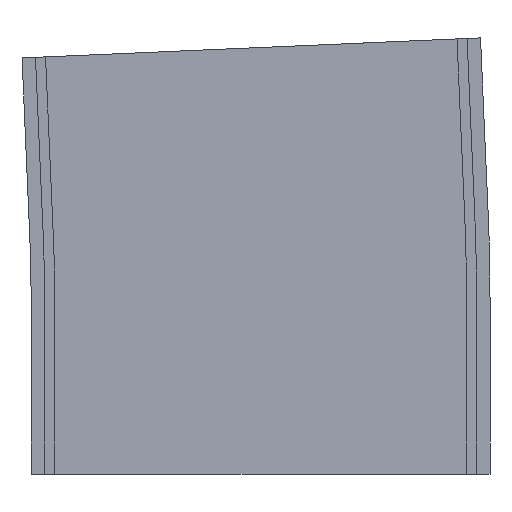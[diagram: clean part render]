
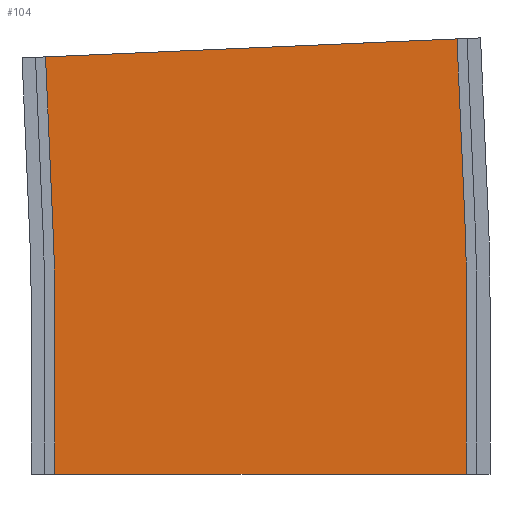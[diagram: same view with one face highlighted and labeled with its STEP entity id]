
A CAD part, left-side view. The second image highlights one B-rep face of the part: STEP entity #104.
In plain terms, the highlighted planar face has unit normal (-1, 0, 0).
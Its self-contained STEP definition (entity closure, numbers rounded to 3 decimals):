
#7 = VECTOR ( 'NONE', #1339, 1000. ) ;
#32 = ORIENTED_EDGE ( 'NONE', *, *, #828, .T. ) ;
#33 = DIRECTION ( 'NONE',  ( -1., 0., 0. ) ) ;
#37 = DIRECTION ( 'NONE',  ( 0., 0.044, 0.999 ) ) ;
#69 = LINE ( 'NONE', #1338, #1218 ) ;
#76 = CARTESIAN_POINT ( 'NONE',  ( -116.25, -61.25, 0. ) ) ;
#87 = LINE ( 'NONE', #76, #1041 ) ;
#97 = ORIENTED_EDGE ( 'NONE', *, *, #1293, .T. ) ;
#100 = VERTEX_POINT ( 'NONE', #921 ) ;
#104 = ADVANCED_FACE ( 'NONE', ( #262 ), #1133, .F. ) ;
#168 = CARTESIAN_POINT ( 'NONE',  ( -116.25, 500., 52.5 ) ) ;
#252 = DIRECTION ( 'NONE',  ( 0., 0., 1. ) ) ;
#262 = FACE_OUTER_BOUND ( 'NONE', #499, .T. ) ;
#270 = CARTESIAN_POINT ( 'NONE',  ( -116.25, -61.25, 52.5 ) ) ;
#279 = VECTOR ( 'NONE', #897, 1000. ) ;
#295 = EDGE_CURVE ( 'NONE', #654, #100, #770, .T. ) ;
#315 = LINE ( 'NONE', #270, #7 ) ;
#328 = VECTOR ( 'NONE', #37, 1000. ) ;
#337 = CARTESIAN_POINT ( 'NONE',  ( -116.25, 500., 52.5 ) ) ;
#364 = VERTEX_POINT ( 'NONE', #1239 ) ;
#365 = CARTESIAN_POINT ( 'NONE',  ( -116.25, 61.668, 71.638 ) ) ;
#404 = ORIENTED_EDGE ( 'NONE', *, *, #1172, .F. ) ;
#499 = EDGE_LOOP ( 'NONE', ( #1300, #404, #32, #568, #907, #1148, #550, #97 ) ) ;
#503 = DIRECTION ( 'NONE',  ( 1., 0., 0. ) ) ;
#538 = VERTEX_POINT ( 'NONE', #603 ) ;
#550 = ORIENTED_EDGE ( 'NONE', *, *, #295, .F. ) ;
#558 = LINE ( 'NONE', #996, #279 ) ;
#568 = ORIENTED_EDGE ( 'NONE', *, *, #918, .T. ) ;
#603 = CARTESIAN_POINT ( 'NONE',  ( -116.25, -60.716, 76.981 ) ) ;
#612 = CARTESIAN_POINT ( 'NONE',  ( -116.25, 61.25, 52.5 ) ) ;
#620 = DIRECTION ( 'NONE',  ( 0., 1., 0. ) ) ;
#654 = VERTEX_POINT ( 'NONE', #612 ) ;
#683 = AXIS2_PLACEMENT_3D ( 'NONE', #337, #1298, #252 ) ;
#706 = CARTESIAN_POINT ( 'NONE',  ( -116.25, -61.25, 52.5 ) ) ;
#717 = CARTESIAN_POINT ( 'NONE',  ( -116.25, -58.426, 129.431 ) ) ;
#741 = VERTEX_POINT ( 'NONE', #986 ) ;
#770 = CIRCLE ( 'NONE', #683, 438.75 ) ;
#828 = EDGE_CURVE ( 'NONE', #891, #538, #1117, .T. ) ;
#829 = CARTESIAN_POINT ( 'NONE',  ( -116.25, 61.25, 0. ) ) ;
#891 = VERTEX_POINT ( 'NONE', #706 ) ;
#897 = DIRECTION ( 'NONE',  ( 0., -0.999, 0.044 ) ) ;
#907 = ORIENTED_EDGE ( 'NONE', *, *, #1205, .F. ) ;
#918 = EDGE_CURVE ( 'NONE', #538, #1035, #69, .T. ) ;
#921 = CARTESIAN_POINT ( 'NONE',  ( -116.25, 61.668, 71.638 ) ) ;
#931 = AXIS2_PLACEMENT_3D ( 'NONE', #1137, #503, #620 ) ;
#986 = CARTESIAN_POINT ( 'NONE',  ( -116.25, 63.958, 124.088 ) ) ;
#996 = CARTESIAN_POINT ( 'NONE',  ( -116.25, -58.426, 129.431 ) ) ;
#999 = DIRECTION ( 'NONE',  ( 0., 0.044, 0.999 ) ) ;
#1033 = CARTESIAN_POINT ( 'NONE',  ( -116.25, 61.25, 52.5 ) ) ;
#1035 = VERTEX_POINT ( 'NONE', #717 ) ;
#1041 = VECTOR ( 'NONE', #1355, 1000. ) ;
#1067 = VERTEX_POINT ( 'NONE', #829 ) ;
#1100 = LINE ( 'NONE', #365, #328 ) ;
#1117 = CIRCLE ( 'NONE', #1359, 561.25 ) ;
#1133 = PLANE ( 'NONE',  #931 ) ;
#1137 = CARTESIAN_POINT ( 'NONE',  ( -116.25, -61.25, 52.5 ) ) ;
#1148 = ORIENTED_EDGE ( 'NONE', *, *, #1258, .F. ) ;
#1172 = EDGE_CURVE ( 'NONE', #891, #364, #315, .T. ) ;
#1205 = EDGE_CURVE ( 'NONE', #741, #1035, #558, .T. ) ;
#1218 = VECTOR ( 'NONE', #999, 1000. ) ;
#1237 = DIRECTION ( 'NONE',  ( 0., 0., -1. ) ) ;
#1239 = CARTESIAN_POINT ( 'NONE',  ( -116.25, -61.25, 0. ) ) ;
#1258 = EDGE_CURVE ( 'NONE', #100, #741, #1100, .T. ) ;
#1293 = EDGE_CURVE ( 'NONE', #654, #1067, #1321, .T. ) ;
#1298 = DIRECTION ( 'NONE',  ( -1., 0., 0. ) ) ;
#1300 = ORIENTED_EDGE ( 'NONE', *, *, #1316, .T. ) ;
#1316 = EDGE_CURVE ( 'NONE', #1067, #364, #87, .T. ) ;
#1321 = LINE ( 'NONE', #1033, #1386 ) ;
#1333 = DIRECTION ( 'NONE',  ( 0., 0., 1. ) ) ;
#1338 = CARTESIAN_POINT ( 'NONE',  ( -116.25, -60.716, 76.981 ) ) ;
#1339 = DIRECTION ( 'NONE',  ( 0., 0., -1. ) ) ;
#1355 = DIRECTION ( 'NONE',  ( 0., -1., 0. ) ) ;
#1359 = AXIS2_PLACEMENT_3D ( 'NONE', #168, #33, #1333 ) ;
#1386 = VECTOR ( 'NONE', #1237, 1000. ) ;
